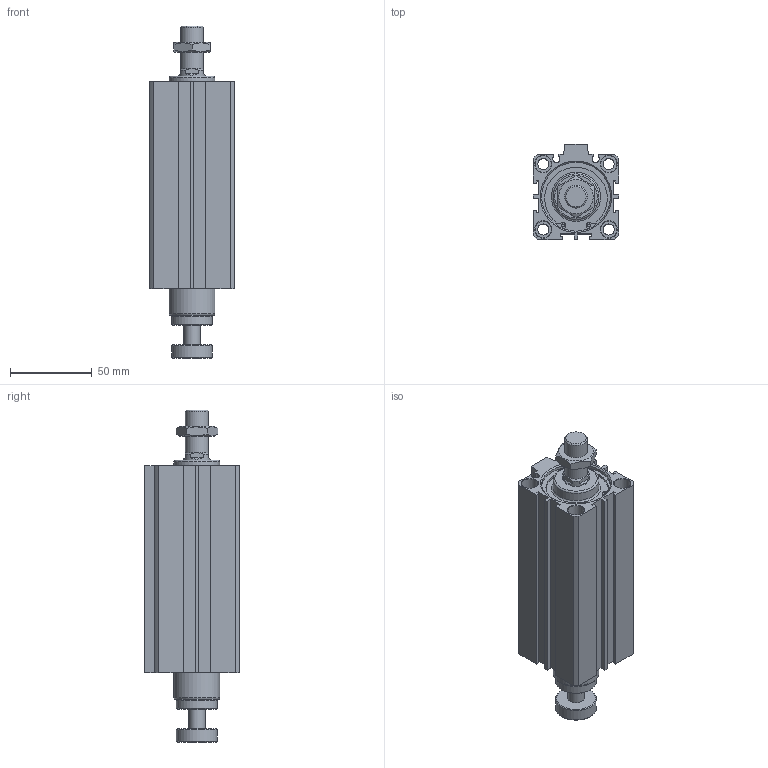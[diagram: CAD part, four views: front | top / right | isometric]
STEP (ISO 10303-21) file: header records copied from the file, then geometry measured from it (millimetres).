
FILE_DESCRIPTION((''),'2;1');
FILE_NAME('I:\3D電子目錄\氣缸\JDAR\JDAR-BS\JDAR40-BS\JDAR40x90-BS.stp','2007-05-05T14:14:55',('662F206'),(''),'Autodesk Inventor 11','Autodesk Inventor 11','');
FILE_SCHEMA(('AUTOMOTIVE_DESIGN { 1 0 10303 214 1 1 1 1 }'));
Length unit declared in the file: millimetre
Products named in the file (3): JDAR40-BS; R 形環 42
Assembly tree (3 placements, depth 2):
  JDAR40-BS
    JDAR40-BS
    R 形環 42  x2
Bounding box: 52 x 58 x 202.8 mm (x, y, z)
Volume: 325584.7 mm3; surface area: 64278.9 mm2
Topology: 3 solids, 3 shells, 179 faces, 418 edges, 271 vertices
Faces by surface type: plane 100, cylinder 50, cone 25, bspline 2, torus 2
Full cylindrical faces by diameter (mm): 1.9 x4, 2.2 x2, 6.8 x4, 10 x9, 14 x2, 16 x1, 25 x2, 28 x2, 42 x4, 44.5 x2
Entity records: 4585 total; most frequent: CARTESIAN_POINT 873, DIRECTION 770, ORIENTED_EDGE 654, EDGE_CURVE 327, AXIS2_PLACEMENT_3D 292, EDGE_LOOP 260, VERTEX_POINT 245, VECTOR 186
